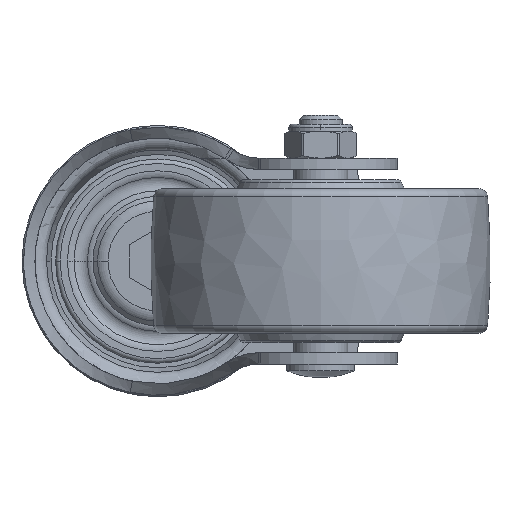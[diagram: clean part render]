
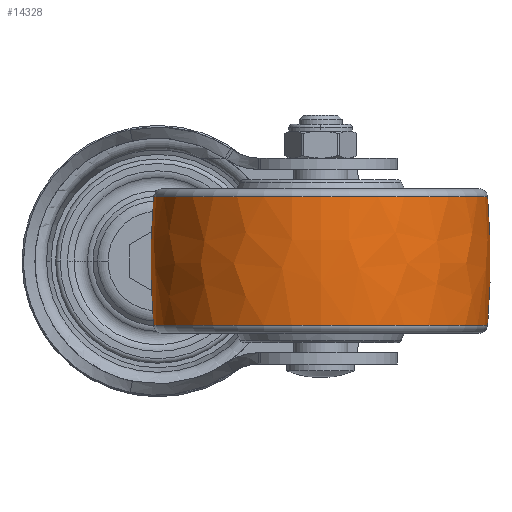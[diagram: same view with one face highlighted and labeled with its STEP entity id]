
A CAD part, front view. The second image highlights one B-rep face of the part: STEP entity #14328.
In plain terms, the highlighted free-form (B-spline) face has degree [3, 3] with [7, 4] control points.
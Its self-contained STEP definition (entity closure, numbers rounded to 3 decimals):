
#13886=CARTESIAN_POINT('',(-0.009,-132.5,
0.));
#13887=DIRECTION('',(0.,0.,1.));
#13888=DIRECTION('',(0.083,0.997,0.));
#13889=AXIS2_PLACEMENT_3D('',#13886,#13887,#13888);
#13891=CARTESIAN_POINT('',(-0.009,132.5,
0.));
#13892=DIRECTION('',(0.,0.,-1.));
#13893=DIRECTION('',(0.083,-0.997,0.));
#13894=AXIS2_PLACEMENT_3D('',#13891,#13892,#13893);
#13896=CARTESIAN_POINT('',(14.184,0.,0.));
#13897=DIRECTION('',(-1.,0.,0.));
#13898=DIRECTION('',(0.,1.,0.));
#13899=AXIS2_PLACEMENT_3D('',#13896,#13897,#13898);
#13921=CARTESIAN_POINT('',(-14.166,0.,0.));
#13922=DIRECTION('',(-1.,0.,0.));
#13923=DIRECTION('',(0.,1.,0.));
#13924=AXIS2_PLACEMENT_3D('',#13921,#13922,#13923);
#14009=CARTESIAN_POINT('',(14.184,36.907,0.));
#14011=VERTEX_POINT('',#14009);
#14012=CARTESIAN_POINT('',(-14.166,36.91,0.));
#14013=VERTEX_POINT('',#14012);
#14037=CARTESIAN_POINT('',(14.184,-36.907,0.));
#14039=VERTEX_POINT('',#14037);
#14040=CARTESIAN_POINT('',(-14.166,-36.91,0.));
#14041=VERTEX_POINT('',#14040);
#14290=CARTESIAN_POINT('',(-14.732,-36.789,
2.315));
#14291=CARTESIAN_POINT('',(-4.917,-37.641,
2.368));
#14292=CARTESIAN_POINT('',(4.935,-37.639,
2.368));
#14293=CARTESIAN_POINT('',(14.75,-36.786,
2.314));
#14294=CARTESIAN_POINT('',(-14.732,-38.213,
-20.325));
#14295=CARTESIAN_POINT('',(-4.917,-39.098,
-20.796));
#14296=CARTESIAN_POINT('',(4.935,-39.097,
-20.795));
#14297=CARTESIAN_POINT('',(14.75,-38.21,
-20.324));
#14298=CARTESIAN_POINT('',(-14.732,-22.685,
-36.862));
#14299=CARTESIAN_POINT('',(-4.917,-23.21,
-37.715));
#14300=CARTESIAN_POINT('',(4.935,-23.209,
-37.714));
#14301=CARTESIAN_POINT('',(14.75,-22.683,
-36.859));
#14302=CARTESIAN_POINT('',(-14.732,0.,
-36.862));
#14303=CARTESIAN_POINT('',(-4.917,0.,
-37.715));
#14304=CARTESIAN_POINT('',(4.935,0.,
-37.714));
#14305=CARTESIAN_POINT('',(14.75,0.,
-36.859));
#14306=CARTESIAN_POINT('',(-14.732,22.685,
-36.862));
#14307=CARTESIAN_POINT('',(-4.917,23.21,
-37.715));
#14308=CARTESIAN_POINT('',(4.935,23.209,
-37.714));
#14309=CARTESIAN_POINT('',(14.75,22.683,
-36.859));
#14310=CARTESIAN_POINT('',(-14.732,38.213,
-20.325));
#14311=CARTESIAN_POINT('',(-4.917,39.098,
-20.796));
#14312=CARTESIAN_POINT('',(4.935,39.097,
-20.795));
#14313=CARTESIAN_POINT('',(14.75,38.21,
-20.324));
#14314=CARTESIAN_POINT('',(-14.732,36.789,
2.315));
#14315=CARTESIAN_POINT('',(-4.917,37.641,
2.368));
#14316=CARTESIAN_POINT('',(4.935,37.639,2.368));
#14317=CARTESIAN_POINT('',(14.75,36.786,2.314));
#14318=(BOUNDED_SURFACE()B_SPLINE_SURFACE(3,3,((#14290,#14291,#14292,#14293),(
#14294,#14295,#14296,#14297),(#14298,#14299,#14300,#14301),(#14302,#14303,
#14304,#14305),(#14306,#14307,#14308,#14309),(#14310,#14311,#14312,#14313),(
#14314,#14315,#14316,#14317)),.UNSPECIFIED.,.F.,.F.,.F.)B_SPLINE_SURFACE_WITH_KNOTS((4,3,4),(4,4),(0.,1.,2.),(0.,1.),.UNSPECIFIED.)GEOMETRIC_REPRESENTATION_ITEM()RATIONAL_B_SPLINE_SURFACE(((1.19,1.187,
1.187,1.19),(0.939,0.937,
0.937,0.939),(0.939,0.937,
0.937,0.939),(1.19,1.187,
1.187,1.19),(0.939,0.937,
0.937,0.939),(0.939,0.937,
0.937,0.939),(1.19,1.187,
1.187,1.19)))REPRESENTATION_ITEM('')SURFACE());
#14320=ORIENTED_EDGE('',*,*,#14319,.T.);
#14322=ORIENTED_EDGE('',*,*,#14321,.T.);
#14324=ORIENTED_EDGE('',*,*,#14323,.F.);
#14325=ORIENTED_EDGE('',*,*,#14283,.F.);
#14326=EDGE_LOOP('',(#14320,#14322,#14324,#14325));
#14327=FACE_OUTER_BOUND('',#14326,.F.);
#13890=CIRCLE('',#13889,170.);
#13895=CIRCLE('',#13894,170.);
#13900=CIRCLE('',#13899,36.907);
#13925=CIRCLE('',#13924,36.91);
#14283=EDGE_CURVE('',#14011,#14039,#13900,.T.);
#14319=EDGE_CURVE('',#14011,#14013,#13890,.T.);
#14321=EDGE_CURVE('',#14013,#14041,#13925,.T.);
#14323=EDGE_CURVE('',#14039,#14041,#13895,.T.);
#14328=ADVANCED_FACE('',(#14327),#14318,.T.);
